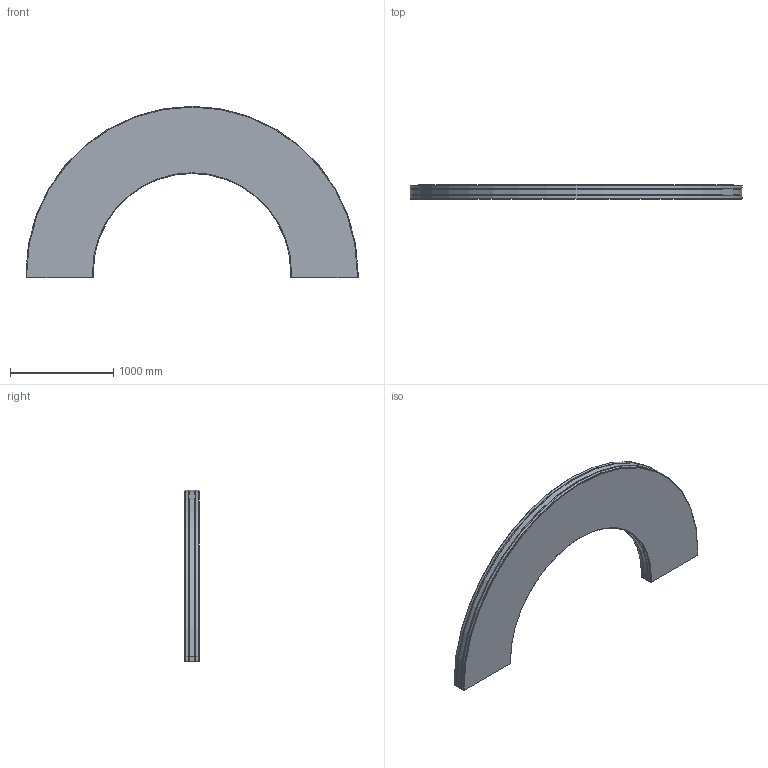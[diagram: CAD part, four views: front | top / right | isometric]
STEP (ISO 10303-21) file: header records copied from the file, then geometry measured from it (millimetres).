
FILE_DESCRIPTION (( 'STEP AP214' ), '1' );
FILE_NAME ('FS-MTC2-150-INOX horizontaalbocht.650 180°.STEP', '2017-02-08T12:40:50', ( '' ), ( '' ), 'SwSTEP 2.0', 'SolidWorks 2016', '' );
FILE_SCHEMA (( 'AUTOMOTIVE_DESIGN' ));
Length unit declared in the file: millimetre
Products named in the file (1): FS-MTC2-150-INOX horizontaalbocht.650 180°
Bounding box: 3210.5 x 136.5 x 1657.75 mm (x, y, z)
Volume: 365140137.4 mm3; surface area: 6754208.8 mm2
Topology: 1 solids, 1 shells, 74 faces, 216 edges, 144 vertices
Faces by surface type: plane 56, cylinder 18
Entity records: 2470 total; most frequent: CARTESIAN_POINT 435, ORIENTED_EDGE 432, DIRECTION 402, EDGE_CURVE 216, LINE 180, VECTOR 180, VERTEX_POINT 144, AXIS2_PLACEMENT_3D 111
